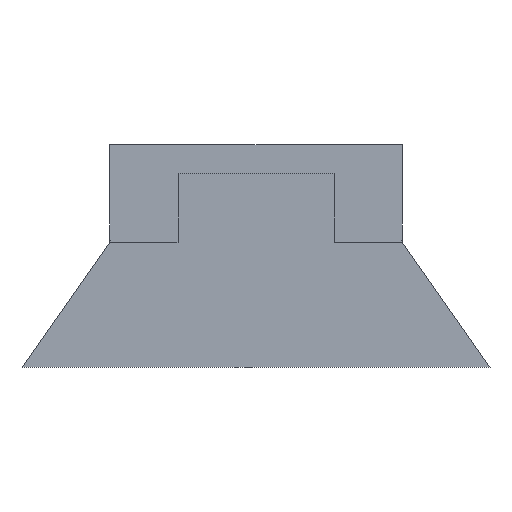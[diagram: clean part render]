
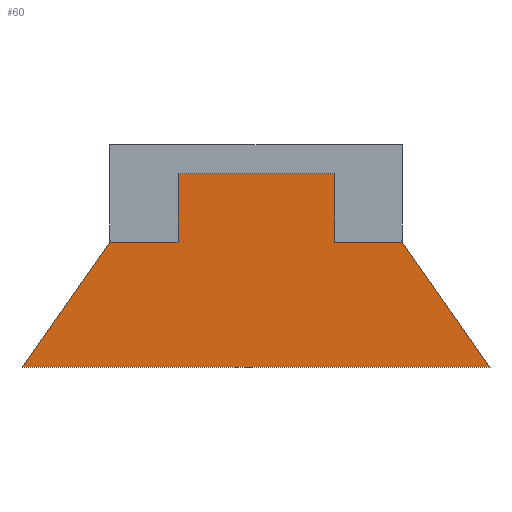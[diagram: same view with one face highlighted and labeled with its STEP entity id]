
A CAD part, front view. The second image highlights one B-rep face of the part: STEP entity #60.
In plain terms, the highlighted planar face has unit normal (0, -1, 0).
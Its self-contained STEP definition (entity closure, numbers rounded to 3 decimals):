
#60=ADVANCED_FACE('',(#122),#124,.T.);
#122=FACE_BOUND('',#123,.T.);
#123=EDGE_LOOP('',(#273,#274,#275,#276,#277,#278,#279,#280));
#124=PLANE('',#125);
#125=AXIS2_PLACEMENT_3D('',#126,#127,#128);
#126=CARTESIAN_POINT('',(150.,-150.,0.));
#127=DIRECTION('',(0.,-1.,0.));
#128=DIRECTION('',(-1.,0.,0.));
#273=ORIENTED_EDGE('',*,*,#346,.T.);
#274=ORIENTED_EDGE('',*,*,#347,.T.);
#275=ORIENTED_EDGE('',*,*,#348,.T.);
#276=ORIENTED_EDGE('',*,*,#330,.T.);
#277=ORIENTED_EDGE('',*,*,#338,.T.);
#278=ORIENTED_EDGE('',*,*,#324,.T.);
#279=ORIENTED_EDGE('',*,*,#345,.T.);
#280=ORIENTED_EDGE('',*,*,#349,.T.);
#324=EDGE_CURVE('',#377,#375,#378,.T.);
#330=EDGE_CURVE('',#387,#385,#388,.T.);
#338=EDGE_CURVE('',#385,#377,#400,.T.);
#345=EDGE_CURVE('',#375,#410,#412,.T.);
#346=EDGE_CURVE('',#413,#414,#415,.T.);
#347=EDGE_CURVE('',#414,#416,#417,.T.);
#348=EDGE_CURVE('',#416,#387,#418,.T.);
#349=EDGE_CURVE('',#410,#413,#419,.T.);
#375=VERTEX_POINT('',#466);
#377=VERTEX_POINT('',#470);
#378=LINE('',#471,#472);
#385=VERTEX_POINT('',#491);
#387=VERTEX_POINT('',#495);
#388=LINE('',#496,#497);
#400=LINE('',#526,#527);
#410=VERTEX_POINT('',#548);
#412=LINE('',#552,#553);
#413=VERTEX_POINT('',#555);
#414=VERTEX_POINT('',#556);
#415=LINE('',#557,#558);
#416=VERTEX_POINT('',#560);
#417=LINE('',#561,#562);
#418=LINE('',#564,#565);
#419=LINE('',#567,#568);
#466=CARTESIAN_POINT('',(-80.,-150.,-100.));
#470=CARTESIAN_POINT('',(-80.,-150.,-30.));
#471=CARTESIAN_POINT('',(-80.,-150.,-30.));
#472=VECTOR('',#473,1.);
#473=DIRECTION('',(0.,0.,-1.));
#491=CARTESIAN_POINT('',(80.,-150.,-30.));
#495=CARTESIAN_POINT('',(80.,-150.,-100.));
#496=CARTESIAN_POINT('',(80.,-150.,-100.));
#497=VECTOR('',#498,1.);
#498=DIRECTION('',(0.,0.,1.));
#526=CARTESIAN_POINT('',(80.,-150.,-30.));
#527=VECTOR('',#528,1.);
#528=DIRECTION('',(-1.,0.,0.));
#548=CARTESIAN_POINT('',(-150.,-150.,-100.));
#552=CARTESIAN_POINT('',(-80.,-150.,-100.));
#553=VECTOR('',#554,1.);
#554=DIRECTION('',(-1.,0.,0.));
#555=CARTESIAN_POINT('',(-240.,-150.,-228.533));
#556=CARTESIAN_POINT('',(240.,-150.,-228.533));
#557=CARTESIAN_POINT('',(-240.,-150.,-228.533));
#558=VECTOR('',#559,1.);
#559=DIRECTION('',(1.,0.,0.));
#560=CARTESIAN_POINT('',(150.,-150.,-100.));
#561=CARTESIAN_POINT('',(240.,-150.,-228.533));
#562=VECTOR('',#563,1.);
#563=DIRECTION('',(-0.574,0.,0.819));
#564=CARTESIAN_POINT('',(150.,-150.,-100.));
#565=VECTOR('',#566,1.);
#566=DIRECTION('',(-1.,0.,0.));
#567=CARTESIAN_POINT('',(-150.,-150.,-100.));
#568=VECTOR('',#569,1.);
#569=DIRECTION('',(-0.574,0.,-0.819));
